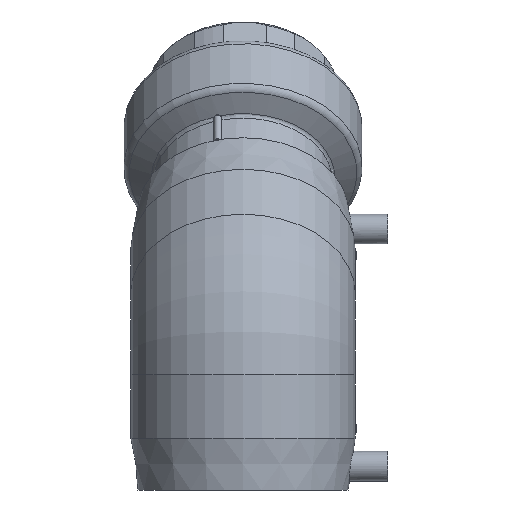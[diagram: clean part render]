
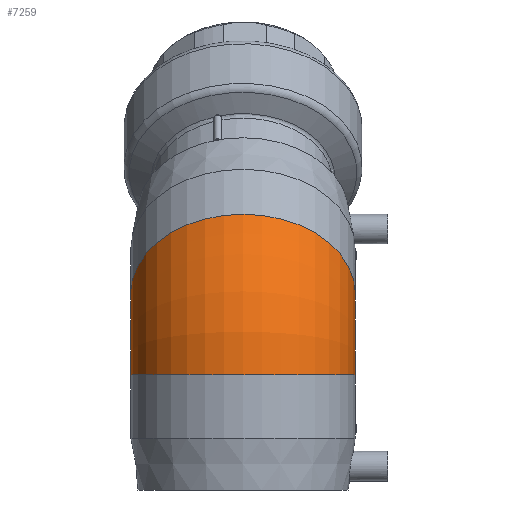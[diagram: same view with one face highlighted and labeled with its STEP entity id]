
A CAD part, left-side view. The second image highlights one B-rep face of the part: STEP entity #7259.
In plain terms, the highlighted toroidal (fillet/blend) face has major radius 57.941 mm and minor radius 56.5 mm.
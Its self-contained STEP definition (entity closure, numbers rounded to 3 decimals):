
#752=TOROIDAL_SURFACE('',#9432,57.941,56.5);
#1388=ORIENTED_EDGE('',*,*,#3725,.T.);
#1389=ORIENTED_EDGE('',*,*,#3726,.F.);
#3725=EDGE_CURVE('',#4899,#4899,#5622,.F.);
#3726=EDGE_CURVE('',#4900,#4900,#5623,.F.);
#4899=VERTEX_POINT('',#12295);
#4900=VERTEX_POINT('',#12298);
#5622=CIRCLE('',#9431,56.5);
#5623=CIRCLE('',#9433,56.5);
#6022=EDGE_LOOP('',(#1388));
#6023=EDGE_LOOP('',(#1389));
#6593=FACE_BOUND('',#6022,.T.);
#6594=FACE_BOUND('',#6023,.T.);
#7259=ADVANCED_FACE('',(#6593,#6594),#752,.T.);
#9431=AXIS2_PLACEMENT_3D('',#12294,#10342,#10343);
#9432=AXIS2_PLACEMENT_3D('',#12296,#10344,#10345);
#9433=AXIS2_PLACEMENT_3D('',#12297,#10346,#10347);
#10342=DIRECTION('',(0.,0.,-1.));
#10343=DIRECTION('',(1.,0.,0.));
#10344=DIRECTION('',(0.,1.,0.));
#10345=DIRECTION('',(0.,0.,1.));
#10346=DIRECTION('',(-0.707,0.,-0.707));
#10347=DIRECTION('',(0.707,0.,-0.707));
#12294=CARTESIAN_POINT('',(0.,0.,-24.));
#12295=CARTESIAN_POINT('',(56.5,0.,-24.));
#12296=CARTESIAN_POINT('',(57.941,0.,-24.));
#12297=CARTESIAN_POINT('',(16.971,0.,16.971));
#12298=CARTESIAN_POINT('',(56.922,0.,-22.981));
